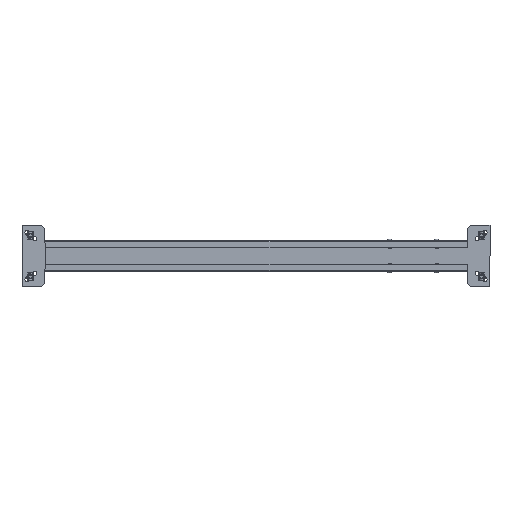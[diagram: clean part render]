
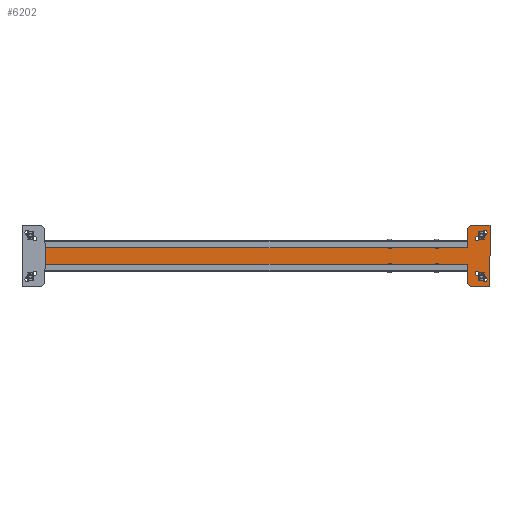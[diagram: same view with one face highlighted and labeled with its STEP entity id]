
A CAD part, top view. The second image highlights one B-rep face of the part: STEP entity #6202.
In plain terms, the highlighted planar face has unit normal (0, 0, 1).
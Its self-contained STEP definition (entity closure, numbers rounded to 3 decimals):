
#501=LINE('',#8739,#873);
#522=LINE('',#8842,#894);
#526=LINE('',#8862,#898);
#530=LINE('',#8874,#902);
#534=LINE('',#8883,#906);
#538=LINE('',#8895,#910);
#540=LINE('',#8899,#912);
#546=LINE('',#8912,#918);
#547=LINE('',#8914,#919);
#553=LINE('',#8928,#925);
#555=LINE('',#8932,#927);
#558=LINE('',#8938,#930);
#873=VECTOR('',#7325,1000.);
#894=VECTOR('',#7420,1000.);
#898=VECTOR('',#7436,1000.);
#902=VECTOR('',#7448,1000.);
#906=VECTOR('',#7454,1000.);
#910=VECTOR('',#7466,1000.);
#912=VECTOR('',#7470,1000.);
#918=VECTOR('',#7478,1000.);
#919=VECTOR('',#7481,1000.);
#925=VECTOR('',#7489,1000.);
#927=VECTOR('',#7493,1000.);
#930=VECTOR('',#7498,1000.);
#1620=ORIENTED_EDGE('',*,*,#2799,.T.);
#1621=ORIENTED_EDGE('',*,*,#2806,.T.);
#1622=ORIENTED_EDGE('',*,*,#2801,.T.);
#1623=ORIENTED_EDGE('',*,*,#2786,.T.);
#1624=ORIENTED_EDGE('',*,*,#2792,.T.);
#1625=ORIENTED_EDGE('',*,*,#2807,.T.);
#1626=ORIENTED_EDGE('',*,*,#2793,.T.);
#1627=ORIENTED_EDGE('',*,*,#2808,.T.);
#1628=ORIENTED_EDGE('',*,*,#2760,.F.);
#1629=ORIENTED_EDGE('',*,*,#2804,.T.);
#1630=ORIENTED_EDGE('',*,*,#2712,.F.);
#1631=ORIENTED_EDGE('',*,*,#2809,.T.);
#1632=ORIENTED_EDGE('',*,*,#2778,.F.);
#1633=ORIENTED_EDGE('',*,*,#2810,.F.);
#1634=ORIENTED_EDGE('',*,*,#2784,.F.);
#1635=ORIENTED_EDGE('',*,*,#2781,.F.);
#1636=ORIENTED_EDGE('',*,*,#2768,.F.);
#1637=ORIENTED_EDGE('',*,*,#2811,.F.);
#1638=ORIENTED_EDGE('',*,*,#2774,.F.);
#1639=ORIENTED_EDGE('',*,*,#2771,.F.);
#2712=EDGE_CURVE('',#3354,#3353,#501,.F.);
#2760=EDGE_CURVE('',#3391,#3392,#522,.T.);
#2768=EDGE_CURVE('',#3397,#3398,#526,.T.);
#2771=EDGE_CURVE('',#3398,#3400,#3797,.T.);
#2774=EDGE_CURVE('',#3400,#3402,#530,.T.);
#2778=EDGE_CURVE('',#3405,#3406,#534,.T.);
#2781=EDGE_CURVE('',#3406,#3408,#3799,.T.);
#2784=EDGE_CURVE('',#3408,#3410,#538,.T.);
#2786=EDGE_CURVE('',#3411,#3412,#540,.T.);
#2792=EDGE_CURVE('',#3412,#3416,#546,.T.);
#2793=EDGE_CURVE('',#3417,#3418,#547,.T.);
#2799=EDGE_CURVE('',#3424,#3423,#553,.T.);
#2801=EDGE_CURVE('',#3425,#3411,#555,.T.);
#2804=EDGE_CURVE('',#3391,#3353,#558,.T.);
#2806=EDGE_CURVE('',#3423,#3425,#3800,.F.);
#2807=EDGE_CURVE('',#3416,#3417,#3801,.F.);
#2808=EDGE_CURVE('',#3418,#3392,#3802,.T.);
#2809=EDGE_CURVE('',#3354,#3424,#3803,.T.);
#2810=EDGE_CURVE('',#3410,#3405,#3804,.T.);
#2811=EDGE_CURVE('',#3402,#3397,#3805,.T.);
#3353=VERTEX_POINT('',#8736);
#3354=VERTEX_POINT('',#8738);
#3391=VERTEX_POINT('',#8841);
#3392=VERTEX_POINT('',#8843);
#3397=VERTEX_POINT('',#8861);
#3398=VERTEX_POINT('',#8863);
#3400=VERTEX_POINT('',#8869);
#3402=VERTEX_POINT('',#8875);
#3405=VERTEX_POINT('',#8882);
#3406=VERTEX_POINT('',#8884);
#3408=VERTEX_POINT('',#8890);
#3410=VERTEX_POINT('',#8896);
#3411=VERTEX_POINT('',#8900);
#3412=VERTEX_POINT('',#8901);
#3416=VERTEX_POINT('',#8911);
#3417=VERTEX_POINT('',#8915);
#3418=VERTEX_POINT('',#8916);
#3423=VERTEX_POINT('',#8927);
#3424=VERTEX_POINT('',#8929);
#3425=VERTEX_POINT('',#8933);
#3797=CIRCLE('',#6616,4.75);
#3799=CIRCLE('',#6621,4.75);
#3800=CIRCLE('',#6630,10.);
#3801=CIRCLE('',#6631,10.);
#3802=CIRCLE('',#6632,1.75);
#3803=CIRCLE('',#6633,1.75);
#3804=CIRCLE('',#6634,4.75);
#3805=CIRCLE('',#6635,4.75);
#4051=EDGE_LOOP('',(#1620,#1621,#1622,#1623,#1624,#1625,#1626,#1627,#1628,
#1629,#1630,#1631));
#4052=EDGE_LOOP('',(#1632,#1633,#1634,#1635));
#4053=EDGE_LOOP('',(#1636,#1637,#1638,#1639));
#4445=FACE_BOUND('',#4051,.T.);
#4446=FACE_BOUND('',#4052,.T.);
#4447=FACE_BOUND('',#4053,.T.);
#4741=PLANE('',#6629);
#6202=ADVANCED_FACE('',(#4445,#4446,#4447),#4741,.F.);
#6616=AXIS2_PLACEMENT_3D('',#8868,#7442,#7443);
#6621=AXIS2_PLACEMENT_3D('',#8889,#7460,#7461);
#6629=AXIS2_PLACEMENT_3D('',#8940,#7500,#7501);
#6630=AXIS2_PLACEMENT_3D('',#8941,#7502,#7503);
#6631=AXIS2_PLACEMENT_3D('',#8942,#7504,#7505);
#6632=AXIS2_PLACEMENT_3D('',#8943,#7506,#7507);
#6633=AXIS2_PLACEMENT_3D('',#8944,#7508,#7509);
#6634=AXIS2_PLACEMENT_3D('',#8945,#7510,#7511);
#6635=AXIS2_PLACEMENT_3D('',#8946,#7512,#7513);
#7325=DIRECTION('',(-1.,0.,0.));
#7420=DIRECTION('',(-1.,0.,0.));
#7436=DIRECTION('',(-0.766,-0.643,0.));
#7442=DIRECTION('',(0.,0.,1.));
#7443=DIRECTION('',(-1.,0.,0.));
#7448=DIRECTION('',(0.766,0.643,0.));
#7454=DIRECTION('',(-0.766,0.643,0.));
#7460=DIRECTION('',(0.,0.,1.));
#7461=DIRECTION('',(1.,0.,0.));
#7466=DIRECTION('',(0.766,-0.643,0.));
#7470=DIRECTION('',(0.,-1.,0.));
#7478=DIRECTION('',(1.,0.,0.));
#7481=DIRECTION('',(0.,1.,0.));
#7489=DIRECTION('',(0.,1.,0.));
#7493=DIRECTION('',(-1.,0.,0.));
#7498=DIRECTION('',(0.,1.,0.));
#7500=DIRECTION('',(0.,0.,-1.));
#7501=DIRECTION('',(-1.,0.,0.));
#7502=DIRECTION('',(0.,0.,-1.));
#7503=DIRECTION('',(-1.,0.,0.));
#7504=DIRECTION('',(0.,0.,-1.));
#7505=DIRECTION('',(-1.,0.,0.));
#7506=DIRECTION('',(0.,0.,-1.));
#7507=DIRECTION('',(1.,0.,0.));
#7508=DIRECTION('',(0.,0.,-1.));
#7509=DIRECTION('',(-1.,0.,0.));
#7510=DIRECTION('',(0.,0.,1.));
#7511=DIRECTION('',(1.,0.,0.));
#7512=DIRECTION('',(0.,0.,1.));
#7513=DIRECTION('',(-1.,0.,0.));
#8736=CARTESIAN_POINT('',(922.,26.9,0.));
#8738=CARTESIAN_POINT('',(26.739,26.899,0.));
#8739=CARTESIAN_POINT('',(0.,26.9,0.));
#8841=CARTESIAN_POINT('',(922.,-26.9,0.));
#8842=CARTESIAN_POINT('',(922.,-26.9,0.));
#8843=CARTESIAN_POINT('',(26.739,-26.899,0.));
#8861=CARTESIAN_POINT('',(-0.349,-33.184,0.));
#8862=CARTESIAN_POINT('',(-0.349,-33.184,0.));
#8863=CARTESIAN_POINT('',(-16.053,-46.361,0.));
#8868=CARTESIAN_POINT('',(-13.,-50.,0.));
#8869=CARTESIAN_POINT('',(-9.947,-53.639,0.));
#8874=CARTESIAN_POINT('',(5.757,-40.462,0.));
#8875=CARTESIAN_POINT('',(5.757,-40.462,0.));
#8882=CARTESIAN_POINT('',(5.757,40.462,0.));
#8883=CARTESIAN_POINT('',(5.757,40.462,0.));
#8884=CARTESIAN_POINT('',(-9.947,53.639,0.));
#8889=CARTESIAN_POINT('',(-13.,50.,0.));
#8890=CARTESIAN_POINT('',(-16.053,46.361,0.));
#8895=CARTESIAN_POINT('',(-0.349,33.184,0.));
#8896=CARTESIAN_POINT('',(-0.349,33.184,0.));
#8899=CARTESIAN_POINT('',(-24.,65.,0.));
#8900=CARTESIAN_POINT('',(-24.,65.,0.));
#8901=CARTESIAN_POINT('',(-24.,-65.,0.));
#8911=CARTESIAN_POINT('',(14.,-65.,0.));
#8912=CARTESIAN_POINT('',(-24.,-65.,0.));
#8914=CARTESIAN_POINT('',(24.,-65.,0.));
#8915=CARTESIAN_POINT('',(24.,-55.,0.));
#8916=CARTESIAN_POINT('',(24.,-28.436,0.));
#8927=CARTESIAN_POINT('',(24.,55.,0.));
#8928=CARTESIAN_POINT('',(24.,0.,0.));
#8929=CARTESIAN_POINT('',(24.,28.436,0.));
#8932=CARTESIAN_POINT('',(-24.,65.,0.));
#8933=CARTESIAN_POINT('',(14.,65.,0.));
#8938=CARTESIAN_POINT('',(922.,27.,0.));
#8940=CARTESIAN_POINT('',(0.,0.,0.));
#8941=CARTESIAN_POINT('',(14.,55.,0.));
#8942=CARTESIAN_POINT('',(14.,-55.,0.));
#8943=CARTESIAN_POINT('',(25.,-27.,0.));
#8944=CARTESIAN_POINT('',(25.,27.,0.));
#8945=CARTESIAN_POINT('',(2.704,36.823,0.));
#8946=CARTESIAN_POINT('',(2.704,-36.823,0.));
